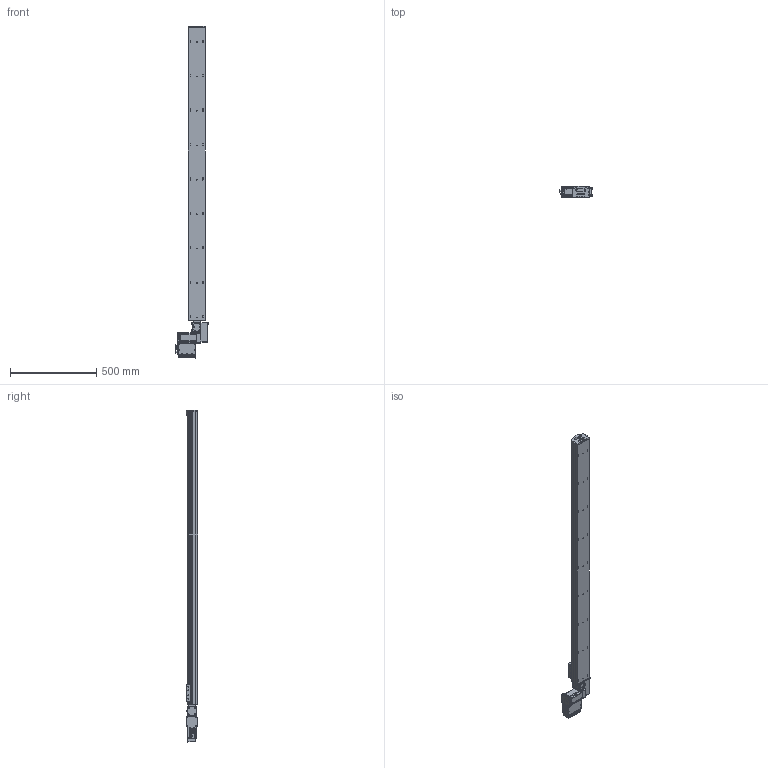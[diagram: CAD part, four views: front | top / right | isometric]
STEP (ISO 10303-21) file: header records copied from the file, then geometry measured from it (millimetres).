
FILE_DESCRIPTION (( 'STEP AP203' ), '1' );
FILE_NAME ('S10 TBN LH S1700.STEP', '2012-06-18T09:45:08', ( 'Conseil Régional Haute-Normandie' ), ( 'Conseil Régional Haute-Normandie' ), 'SwSTEP 2.0', 'SolidWorks 2010', '' );
FILE_SCHEMA (( 'CONFIG_CONTROL_DESIGN' ));
Length unit declared in the file: millimetre
Products named in the file (29): T_X2_00F4_X0_le Arri_X2_00E8_X0_re_5; Colonnette ronde_3; Cvis M5 L30_Default; embout; vis M5 L12_Default; Vis M5 L16-2_Default_1; vis M5 L5_Default; S10 TBN LH S1700; Assem1_7; T_X2_00F4_X0_le contre le moteur_5; BU41 Carte Alimentation P05_3; Colonnette_3; BU45 Carte d''axe A11_5; Moteur 60BLDC90A_3; Couvercle_3; T_X2_00F4_X0_le fond_3; Connecteur rond D10 3cts_5; Connecteur rond D12 4cts_5; Sub D 9cts 90_X2_00B_X0__3; Radiateur profil_X2_00E9_X0_ 100x25_3; T_X2_00F4_X0_le lat_X2_00E9_X0_rale_5; Vis TF 3 torkx_1_1; cache t皻e axe_Default; cache t皻e_Default; palette tbn; plaque de bout s10_Default; Plaque racord_Default; renvoi LH_Default; axe 1700
Assembly tree (62 placements, depth 3):
  S10 TBN LH S1700
    vis M5 L5_Default  x4
    vis M5 L12_Default  x4
    Vis M5 L16-2_Default_1  x4
    embout
    palette tbn
    Assem1_7
      T_X2_00F4_X0_le lat_X2_00E9_X0_rale_5  x2
      Vis TF 3 torkx_1_1  x21
      T_X2_00F4_X0_le contre le moteur_5
      Couvercle_3
      BU41 Carte Alimentation P05_3
      BU45 Carte d''axe A11_5
      Connecteur rond D10 3cts_5  x2
      Colonnette_3  x2
      Connecteur rond D12 4cts_5
      Sub D 9cts 90_X2_00B_X0__3
      Colonnette ronde_3
      Radiateur profil_X2_00E9_X0_ 100x25_3
      T_X2_00F4_X0_le fond_3
      T_X2_00F4_X0_le Arri_X2_00E8_X0_re_5
      Moteur 60BLDC90A_3
    Cvis M5 L30_Default  x2
    cache t皻e axe_Default
    renvoi LH_Default
    axe 1700
    cache t皻e_Default  x2
    Plaque racord_Default
    plaque de bout s10_Default
Bounding box: 189.8 x 66.75 x 1928.5 mm (x, y, z)
Volume: 9677481.5 mm3; surface area: 1125181.1 mm2
Topology: 61 solids, 61 shells, 2334 faces, 5784 edges, 3727 vertices
Faces by surface type: plane 1105, cylinder 1004, cone 182, bspline 40, torus 3
Entity records: 48695 total; most frequent: CARTESIAN_POINT 8775, DIRECTION 7881, ORIENTED_EDGE 7148, EDGE_CURVE 3574, AXIS2_PLACEMENT_3D 2932, VERTEX_POINT 2331, LINE 2017, VECTOR 2017
